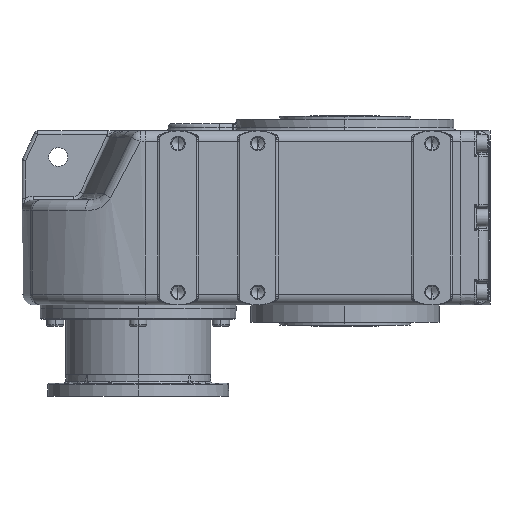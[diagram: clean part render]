
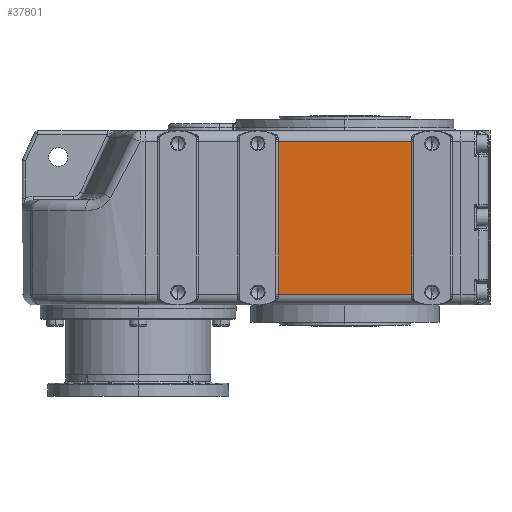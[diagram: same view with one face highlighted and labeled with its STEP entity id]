
A CAD part, left-side view. The second image highlights one B-rep face of the part: STEP entity #37801.
In plain terms, the highlighted planar face has unit normal (-1, 0, 0).
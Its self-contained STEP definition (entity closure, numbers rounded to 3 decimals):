
#37592 = EDGE_CURVE ( 'NONE', #37594, #37596, #52239, .T. ) ;
#37594 = VERTEX_POINT ( 'NONE', #52216 ) ;
#37596 = VERTEX_POINT ( 'NONE', #52281 ) ;
#37604 = VERTEX_POINT ( 'NONE', #52279 ) ;
#37651 = VERTEX_POINT ( 'NONE', #52377 ) ;
#37757 = EDGE_CURVE ( 'NONE', #37604, #37651, #52576, .T. ) ;
#37759 = ORIENTED_EDGE ( 'NONE', *, *, #37760, .T. ) ;
#37760 = EDGE_CURVE ( 'NONE', #37651, #37594, #52566, .T. ) ;
#37763 = ORIENTED_EDGE ( 'NONE', *, *, #37592, .T. ) ;
#37766 = ORIENTED_EDGE ( 'NONE', *, *, #37767, .T. ) ;
#37767 = EDGE_CURVE ( 'NONE', #37596, #37604, #52562, .T. ) ;
#37801 = ADVANCED_FACE ( 'NONE', ( #52644 ), #52639, .F. ) ;
#37905 = EDGE_LOOP ( 'NONE', ( #37906, #37759, #37763, #37766 ) ) ;
#37906 = ORIENTED_EDGE ( 'NONE', *, *, #37757, .T. ) ;
#52216 = CARTESIAN_POINT ( 'NONE',  ( -197.5, -92.042, 225. ) ) ;
#52217 = DIRECTION ( 'NONE',  ( 0., 1., 0. ) ) ;
#52218 = VECTOR ( 'NONE', #52217, 1000. ) ;
#52219 = CARTESIAN_POINT ( 'NONE',  ( -197.5, 275., 225. ) ) ;
#52239 = LINE ( 'NONE', #52219, #52218 ) ;
#52279 = CARTESIAN_POINT ( 'NONE',  ( -197.5, 92.042, 15. ) ) ;
#52281 = CARTESIAN_POINT ( 'NONE',  ( -197.5, 92.042, 225. ) ) ;
#52377 = CARTESIAN_POINT ( 'NONE',  ( -197.5, -92.042, 15. ) ) ;
#52559 = DIRECTION ( 'NONE',  ( 0., 0., -1. ) ) ;
#52560 = VECTOR ( 'NONE', #52559, 1000. ) ;
#52561 = CARTESIAN_POINT ( 'NONE',  ( -197.5, 92.042, 240. ) ) ;
#52562 = LINE ( 'NONE', #52561, #52560 ) ;
#52563 = DIRECTION ( 'NONE',  ( 0., 0., 1. ) ) ;
#52564 = VECTOR ( 'NONE', #52563, 1000. ) ;
#52565 = CARTESIAN_POINT ( 'NONE',  ( -197.5, -92.042, 240. ) ) ;
#52566 = LINE ( 'NONE', #52565, #52564 ) ;
#52567 = DIRECTION ( 'NONE',  ( 0., -1., 0. ) ) ;
#52568 = VECTOR ( 'NONE', #52567, 1000. ) ;
#52569 = CARTESIAN_POINT ( 'NONE',  ( -197.5, 275., 15. ) ) ;
#52576 = LINE ( 'NONE', #52569, #52568 ) ;
#52635 = DIRECTION ( 'NONE',  ( 0., 1., 0. ) ) ;
#52636 = DIRECTION ( 'NONE',  ( 1., 0., 0. ) ) ;
#52637 = CARTESIAN_POINT ( 'NONE',  ( -197.5, 275., 240. ) ) ;
#52638 = AXIS2_PLACEMENT_3D ( 'NONE', #52637, #52636, #52635 ) ;
#52639 = PLANE ( 'NONE',  #52638 ) ;
#52644 = FACE_OUTER_BOUND ( 'NONE', #37905, .T. ) ;
